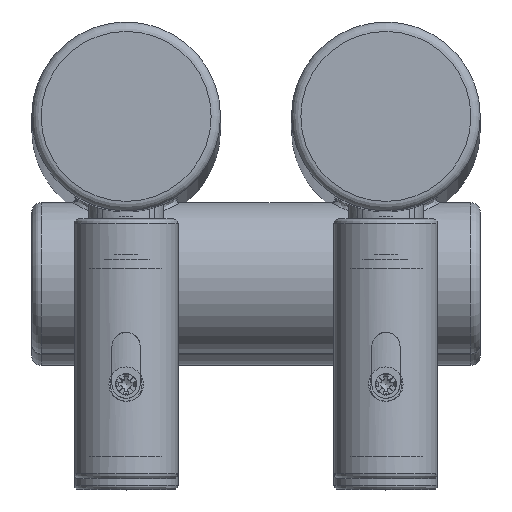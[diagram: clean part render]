
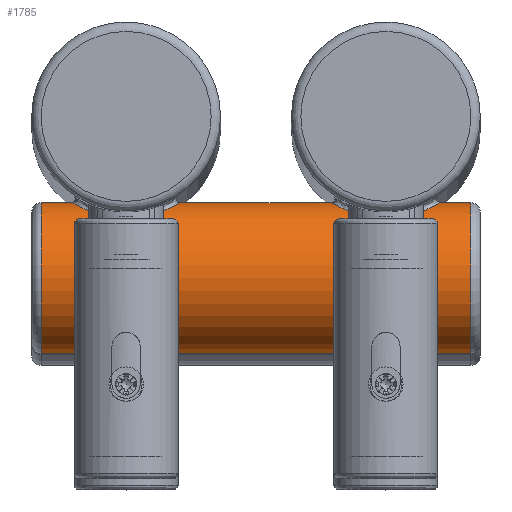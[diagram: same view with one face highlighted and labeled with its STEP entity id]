
A CAD part, top view. The second image highlights one B-rep face of the part: STEP entity #1785.
In plain terms, the highlighted cylindrical face has radius 16 mm (diameter 32 mm), a full revolution.
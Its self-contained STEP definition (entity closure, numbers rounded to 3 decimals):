
#156=FACE_BOUND('',#472,.T.);
#157=FACE_BOUND('',#473,.T.);
#175=LINE('',#3563,#246);
#246=VECTOR('',#2233,16.);
#317=CYLINDRICAL_SURFACE('',#1954,16.);
#348=FACE_OUTER_BOUND('',#471,.T.);
#471=EDGE_LOOP('',(#1265,#1266,#1267,#1268));
#472=EDGE_LOOP('',(#1269));
#473=EDGE_LOOP('',(#1270));
#604=B_SPLINE_CURVE_WITH_KNOTS('',3,(#3541,#3542,#3543,#3544,#3545,#3546,
#3547,#3548,#3549,#3550,#3551,#3552,#3553,#3554,#3555,#3556,#3557,#3558),
 .UNSPECIFIED.,.T.,.F.,(4,1,1,1,1,1,1,1,1,1,1,1,1,1,1,4),(0.,0.367,
0.733,1.1,1.466,1.955,2.199,
2.444,2.933,3.177,3.421,3.666,
3.91,4.399,4.765,5.132),
 .UNSPECIFIED.);
#605=B_SPLINE_CURVE_WITH_KNOTS('',3,(#3566,#3567,#3568,#3569,#3570,#3571,
#3572,#3573,#3574,#3575,#3576,#3577,#3578,#3579,#3580,#3581,#3582,#3583,
#3584,#3585,#3586,#3587,#3588,#3589,#3590),.UNSPECIFIED.,.T.,.F.,(4,1,1,
1,1,1,1,1,1,1,1,1,1,1,1,1,1,1,1,1,1,1,4),(0.,0.367,0.733,
1.1,1.283,1.466,1.711,1.955,
2.077,2.199,2.444,2.933,3.177,
3.421,3.666,3.788,3.91,4.154,
4.277,4.338,4.399,4.765,5.132),
 .UNSPECIFIED.);
#650=CIRCLE('',#1955,16.);
#651=CIRCLE('',#1956,16.);
#788=VERTEX_POINT('',#3539);
#789=VERTEX_POINT('',#3560);
#790=VERTEX_POINT('',#3562);
#791=VERTEX_POINT('',#3565);
#980=EDGE_CURVE('',#788,#788,#604,.T.);
#981=EDGE_CURVE('',#789,#789,#650,.T.);
#982=EDGE_CURVE('',#789,#790,#175,.T.);
#983=EDGE_CURVE('',#790,#790,#651,.T.);
#984=EDGE_CURVE('',#791,#791,#605,.T.);
#1265=ORIENTED_EDGE('',*,*,#981,.F.);
#1266=ORIENTED_EDGE('',*,*,#982,.T.);
#1267=ORIENTED_EDGE('',*,*,#983,.F.);
#1268=ORIENTED_EDGE('',*,*,#982,.F.);
#1269=ORIENTED_EDGE('',*,*,#984,.F.);
#1270=ORIENTED_EDGE('',*,*,#980,.F.);
#1785=ADVANCED_FACE('',(#348,#156,#157),#317,.T.);
#1954=AXIS2_PLACEMENT_3D('',#3559,#2229,#2230);
#1955=AXIS2_PLACEMENT_3D('',#3561,#2231,#2232);
#1956=AXIS2_PLACEMENT_3D('',#3564,#2234,#2235);
#2229=DIRECTION('center_axis',(-1.,0.,0.));
#2230=DIRECTION('ref_axis',(0.,0.,1.));
#2231=DIRECTION('center_axis',(-1.,0.,0.));
#2232=DIRECTION('ref_axis',(0.,0.,1.));
#2233=DIRECTION('',(1.,0.,0.));
#2234=DIRECTION('center_axis',(1.,0.,0.));
#2235=DIRECTION('ref_axis',(0.,0.,1.));
#3539=CARTESIAN_POINT('',(-55.,-21.257,1454.676));
#3541=CARTESIAN_POINT('Ctrl Pts',(-55.,-21.257,1454.676));
#3542=CARTESIAN_POINT('Ctrl Pts',(-53.333,-21.257,1454.676));
#3543=CARTESIAN_POINT('Ctrl Pts',(-49.998,-20.862,1454.186));
#3544=CARTESIAN_POINT('Ctrl Pts',(-45.822,-19.32,1451.731));
#3545=CARTESIAN_POINT('Ctrl Pts',(-43.543,-17.947,1447.499));
#3546=CARTESIAN_POINT('Ctrl Pts',(-43.525,-17.943,1441.936));
#3547=CARTESIAN_POINT('Ctrl Pts',(-46.229,-19.554,1437.874));
#3548=CARTESIAN_POINT('Ctrl Pts',(-50.077,-20.767,1435.98));
#3549=CARTESIAN_POINT('Ctrl Pts',(-54.395,-21.458,1435.071));
#3550=CARTESIAN_POINT('Ctrl Pts',(-58.972,-21.079,1435.505));
#3551=CARTESIAN_POINT('Ctrl Pts',(-62.797,-19.859,1437.413));
#3552=CARTESIAN_POINT('Ctrl Pts',(-64.989,-18.831,1439.665));
#3553=CARTESIAN_POINT('Ctrl Pts',(-66.247,-18.084,1442.577));
#3554=CARTESIAN_POINT('Ctrl Pts',(-66.602,-17.836,1446.907));
#3555=CARTESIAN_POINT('Ctrl Pts',(-64.645,-19.134,1451.468));
#3556=CARTESIAN_POINT('Ctrl Pts',(-59.999,-20.872,1454.179));
#3557=CARTESIAN_POINT('Ctrl Pts',(-56.667,-21.257,1454.676));
#3558=CARTESIAN_POINT('Ctrl Pts',(-55.,-21.257,1454.676));
#3559=CARTESIAN_POINT('Origin',(20.,-34.,1445.));
#3560=CARTESIAN_POINT('',(-73.,-34.,1429.));
#3561=CARTESIAN_POINT('Origin',(-73.,-34.,1445.));
#3562=CARTESIAN_POINT('',(18.,-34.,1429.));
#3563=CARTESIAN_POINT('',(20.,-34.,1429.));
#3564=CARTESIAN_POINT('Origin',(18.,-34.,1445.));
#3565=CARTESIAN_POINT('',(0.,-21.257,1454.676));
#3566=CARTESIAN_POINT('Ctrl Pts',(0.,-21.257,
1454.676));
#3567=CARTESIAN_POINT('Ctrl Pts',(1.667,-21.257,1454.676));
#3568=CARTESIAN_POINT('Ctrl Pts',(5.005,-20.862,1454.184));
#3569=CARTESIAN_POINT('Ctrl Pts',(9.172,-19.323,1451.732));
#3570=CARTESIAN_POINT('Ctrl Pts',(11.085,-18.177,1448.197));
#3571=CARTESIAN_POINT('Ctrl Pts',(11.461,-17.94,1445.));
#3572=CARTESIAN_POINT('Ctrl Pts',(11.146,-18.139,1442.337));
#3573=CARTESIAN_POINT('Ctrl Pts',(9.987,-18.832,1439.662));
#3574=CARTESIAN_POINT('Ctrl Pts',(8.162,-19.688,1437.79));
#3575=CARTESIAN_POINT('Ctrl Pts',(6.363,-20.315,1436.696));
#3576=CARTESIAN_POINT('Ctrl Pts',(4.387,-20.85,1435.862));
#3577=CARTESIAN_POINT('Ctrl Pts',(0.602,-21.46,1435.076));
#3578=CARTESIAN_POINT('Ctrl Pts',(-3.97,-21.079,1435.503));
#3579=CARTESIAN_POINT('Ctrl Pts',(-7.799,-19.86,1437.414));
#3580=CARTESIAN_POINT('Ctrl Pts',(-9.986,-18.833,1439.665));
#3581=CARTESIAN_POINT('Ctrl Pts',(-11.04,-18.204,1442.095));
#3582=CARTESIAN_POINT('Ctrl Pts',(-11.377,-17.994,1444.199));
#3583=CARTESIAN_POINT('Ctrl Pts',(-11.378,-17.993,1446.338));
#3584=CARTESIAN_POINT('Ctrl Pts',(-10.87,-18.315,1448.423));
#3585=CARTESIAN_POINT('Ctrl Pts',(-9.996,-18.797,1450.026));
#3586=CARTESIAN_POINT('Ctrl Pts',(-9.382,-19.106,1450.86));
#3587=CARTESIAN_POINT('Ctrl Pts',(-8.011,-19.754,1452.412));
#3588=CARTESIAN_POINT('Ctrl Pts',(-5.007,-20.856,1454.184));
#3589=CARTESIAN_POINT('Ctrl Pts',(-1.667,-21.257,1454.676));
#3590=CARTESIAN_POINT('Ctrl Pts',(0.,-21.257,
1454.676));
